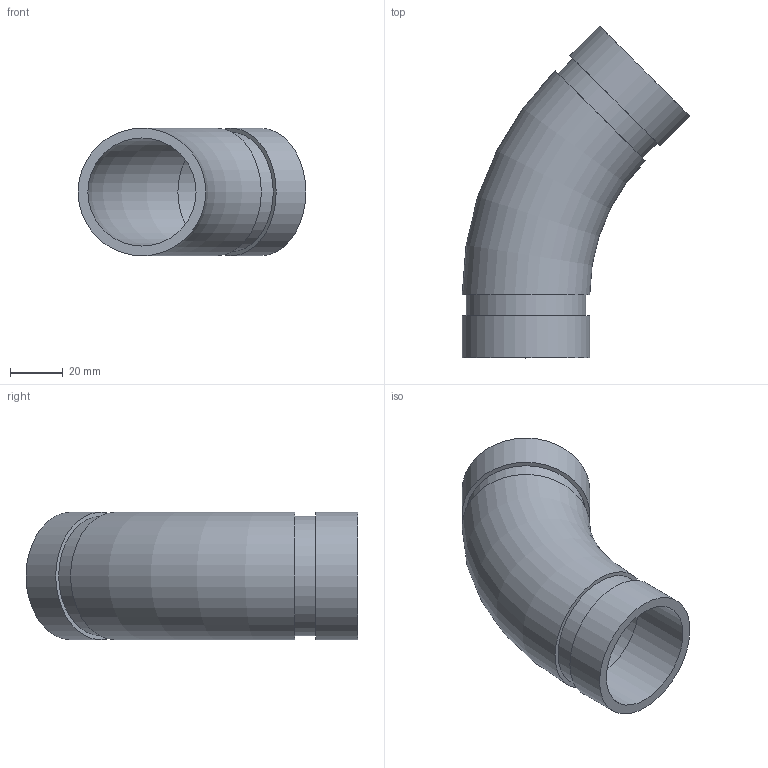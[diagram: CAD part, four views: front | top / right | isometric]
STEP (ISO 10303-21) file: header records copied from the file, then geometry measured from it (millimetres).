
FILE_DESCRIPTION(/* description */ ('VIC SS ELBOW 45 DEG No 411DX (OGS)'),/* implementation_level */ '2;1');
FILE_NAME(/* name */ 'C:\Files for Export\SS Duplex\STEP\Victaulic_SS-OGS_Elb 45 Deg_No 411DX (OGS)\Victaulic_SS-OGS_Elb 45 Deg_No 411DX (OGS)_1.5 (40).stp',/* time_stamp */ '2024-08-28T10:36:06+02:00',/* author */ ('CORINNE GRAY'),/* organization */ ('Victaulic'),/* preprocessor_version */ 'ST-DEVELOPER v18.1',/* originating_system */ 'Autodesk Inventor 2020',/* authorisation */ '');
FILE_SCHEMA (('AUTOMOTIVE_DESIGN { 1 0 10303 214 3 1 1 }'));
Length unit declared in the file: inch
Products named in the file (1): 411DX-01.5
Bounding box: 86.09 x 125.46 x 48.26 mm (x, y, z)
Volume: 59676.9 mm3; surface area: 36220.5 mm2
Topology: 1 solids, 1 shells, 14 faces, 26 edges, 18 vertices
Faces by surface type: plane 6, cylinder 6, torus 2
Full cylindrical faces by diameter (mm): 40.894 x2, 45.085 x2, 48.26 x2
Entity records: 427 total; most frequent: DIRECTION 76, CARTESIAN_POINT 59, ORIENTED_EDGE 52, AXIS2_PLACEMENT_3D 35, EDGE_CURVE 26, EDGE_LOOP 20, CIRCLE 20, VERTEX_POINT 18
